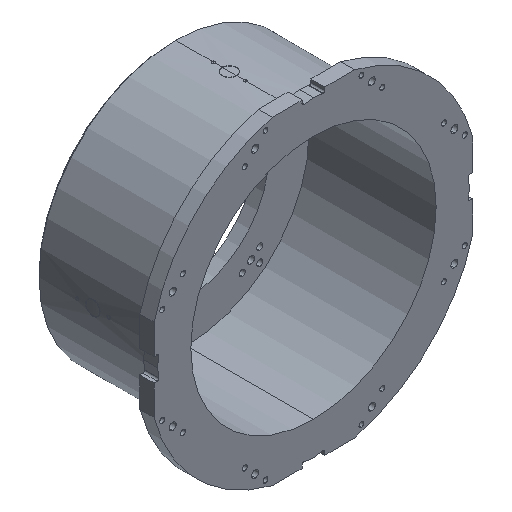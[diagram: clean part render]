
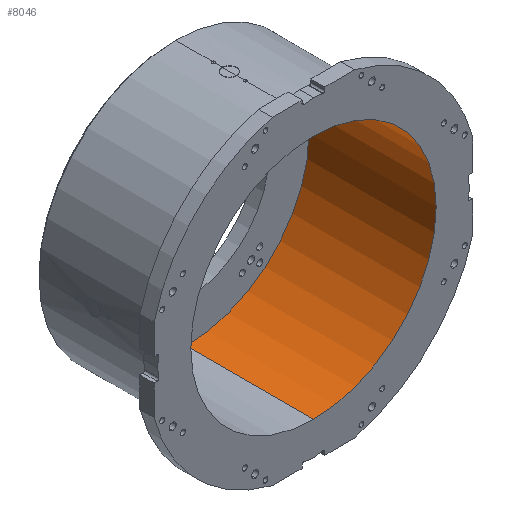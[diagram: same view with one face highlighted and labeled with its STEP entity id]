
A CAD part, isometric view. The second image highlights one B-rep face of the part: STEP entity #8046.
In plain terms, the highlighted cylindrical face has radius 350 mm (diameter 700 mm), a partial arc.
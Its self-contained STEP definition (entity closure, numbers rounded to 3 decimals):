
#32 = VECTOR ( 'NONE', #1091, 1000. ) ;
#157 = DIRECTION ( 'NONE',  ( 0., 0., 1. ) ) ;
#1091 = DIRECTION ( 'NONE',  ( 0., 1., 0. ) ) ;
#1138 = VERTEX_POINT ( 'NONE', #10130 ) ;
#1147 = AXIS2_PLACEMENT_3D ( 'NONE', #6991, #6176, #10207 ) ;
#1631 = ORIENTED_EDGE ( 'NONE', *, *, #3105, .T. ) ;
#1884 = EDGE_LOOP ( 'NONE', ( #5193, #5126, #3613, #1631 ) ) ;
#2013 = CARTESIAN_POINT ( 'NONE',  ( 0., 363., 350. ) ) ;
#2207 = VERTEX_POINT ( 'NONE', #5719 ) ;
#2266 = VECTOR ( 'NONE', #5378, 1000. ) ;
#2514 = EDGE_CURVE ( 'NONE', #8778, #1138, #7801, .T. ) ;
#2533 = CARTESIAN_POINT ( 'NONE',  ( 0., 363., 0. ) ) ;
#3105 = EDGE_CURVE ( 'NONE', #10320, #1138, #10436, .T. ) ;
#3242 = CARTESIAN_POINT ( 'NONE',  ( 0., 0., 0. ) ) ;
#3327 = AXIS2_PLACEMENT_3D ( 'NONE', #3242, #8968, #7267 ) ;
#3613 = ORIENTED_EDGE ( 'NONE', *, *, #9922, .T. ) ;
#3662 = CYLINDRICAL_SURFACE ( 'NONE', #1147, 350. ) ;
#4374 = DIRECTION ( 'NONE',  ( 0., 1., 0. ) ) ;
#4471 = CARTESIAN_POINT ( 'NONE',  ( 0., 0., 350. ) ) ;
#4612 = AXIS2_PLACEMENT_3D ( 'NONE', #2533, #4374, #157 ) ;
#5126 = ORIENTED_EDGE ( 'NONE', *, *, #7253, .F. ) ;
#5193 = ORIENTED_EDGE ( 'NONE', *, *, #2514, .F. ) ;
#5378 = DIRECTION ( 'NONE',  ( 0., 1., 0. ) ) ;
#5719 = CARTESIAN_POINT ( 'NONE',  ( 0., 0., 350. ) ) ;
#5880 = CARTESIAN_POINT ( 'NONE',  ( 0., 0., -350. ) ) ;
#6176 = DIRECTION ( 'NONE',  ( 0., 1., 0. ) ) ;
#6991 = CARTESIAN_POINT ( 'NONE',  ( 0., 0., 0. ) ) ;
#7253 = EDGE_CURVE ( 'NONE', #2207, #8778, #8969, .T. ) ;
#7267 = DIRECTION ( 'NONE',  ( 0., 0., 1. ) ) ;
#7646 = LINE ( 'NONE', #4471, #32 ) ;
#7801 = LINE ( 'NONE', #8490, #2266 ) ;
#8001 = FACE_OUTER_BOUND ( 'NONE', #1884, .T. ) ;
#8046 = ADVANCED_FACE ( 'NONE', ( #8001 ), #3662, .F. ) ;
#8490 = CARTESIAN_POINT ( 'NONE',  ( 0., 0., -350. ) ) ;
#8778 = VERTEX_POINT ( 'NONE', #5880 ) ;
#8968 = DIRECTION ( 'NONE',  ( 0., 1., 0. ) ) ;
#8969 = CIRCLE ( 'NONE', #3327, 350. ) ;
#9922 = EDGE_CURVE ( 'NONE', #2207, #10320, #7646, .T. ) ;
#10130 = CARTESIAN_POINT ( 'NONE',  ( 0., 363., -350. ) ) ;
#10207 = DIRECTION ( 'NONE',  ( 0., 0., 1. ) ) ;
#10320 = VERTEX_POINT ( 'NONE', #2013 ) ;
#10436 = CIRCLE ( 'NONE', #4612, 350. ) ;
